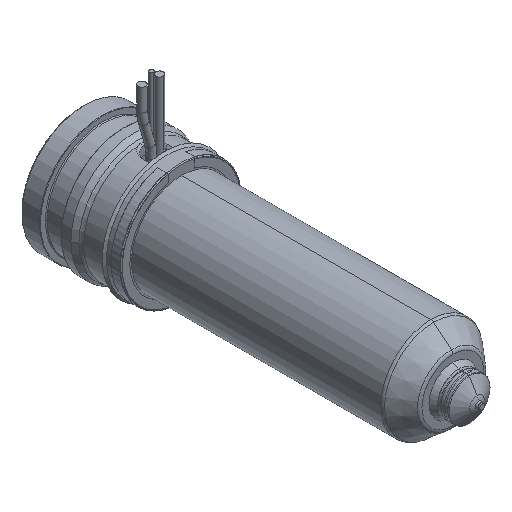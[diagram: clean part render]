
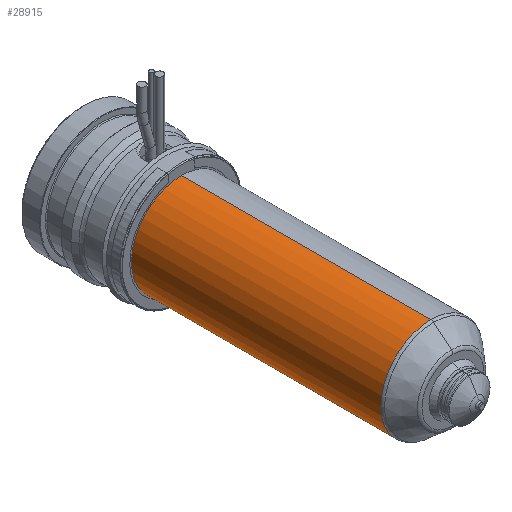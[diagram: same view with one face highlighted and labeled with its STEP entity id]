
A CAD part, isometric view. The second image highlights one B-rep face of the part: STEP entity #28915.
In plain terms, the highlighted cylindrical face has radius 12 mm (diameter 24 mm), a partial arc.
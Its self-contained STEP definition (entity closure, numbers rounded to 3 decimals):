
#28302=CARTESIAN_POINT('',(0.,-83.736,0.));
#28303=DIRECTION('',(0.,-1.,0.));
#28304=DIRECTION('',(0.,0.,1.));
#28305=AXIS2_PLACEMENT_3D('',#28302,#28303,#28304);
#28310=CARTESIAN_POINT('',(0.,-24.,0.));
#28311=DIRECTION('',(0.,1.,0.));
#28312=DIRECTION('',(0.,0.,-1.));
#28313=AXIS2_PLACEMENT_3D('',#28310,#28311,#28312);
#28318=DIRECTION('',(0.,1.,0.));
#28319=VECTOR('',#28318,59.736);
#28320=CARTESIAN_POINT('',(0.,-83.736,12.));
#28321=LINE('',#28320,#28319);
#28333=DIRECTION('',(0.,1.,0.));
#28334=VECTOR('',#28333,59.736);
#28335=CARTESIAN_POINT('',(0.,-83.736,-12.));
#28336=LINE('',#28335,#28334);
#28520=CARTESIAN_POINT('',(0.,-83.736,12.));
#28521=CARTESIAN_POINT('',(0.,-24.,12.));
#28522=VERTEX_POINT('',#28520);
#28523=VERTEX_POINT('',#28521);
#28524=CARTESIAN_POINT('',(0.,-83.736,-12.));
#28525=CARTESIAN_POINT('',(0.,-24.,-12.));
#28526=VERTEX_POINT('',#28524);
#28527=VERTEX_POINT('',#28525);
#28901=CARTESIAN_POINT('',(0.,-16.2,0.));
#28902=DIRECTION('',(0.,-1.,0.));
#28903=DIRECTION('',(0.,0.,1.));
#28904=AXIS2_PLACEMENT_3D('',#28901,#28902,#28903);
#28905=CYLINDRICAL_SURFACE('',#28904,12.);
#28907=ORIENTED_EDGE('',*,*,#28906,.F.);
#28908=ORIENTED_EDGE('',*,*,#28896,.T.);
#28910=ORIENTED_EDGE('',*,*,#28909,.T.);
#28912=ORIENTED_EDGE('',*,*,#28911,.T.);
#28913=EDGE_LOOP('',(#28907,#28908,#28910,#28912));
#28914=FACE_OUTER_BOUND('',#28913,.F.);
#28915=ADVANCED_FACE('',(#28914),#28905,.T.);
#28306=CIRCLE('',#28305,12.);
#28314=CIRCLE('',#28313,12.);
#28896=EDGE_CURVE('',#28522,#28526,#28306,.T.);
#28906=EDGE_CURVE('',#28522,#28523,#28321,.T.);
#28909=EDGE_CURVE('',#28526,#28527,#28336,.T.);
#28911=EDGE_CURVE('',#28527,#28523,#28314,.T.);
